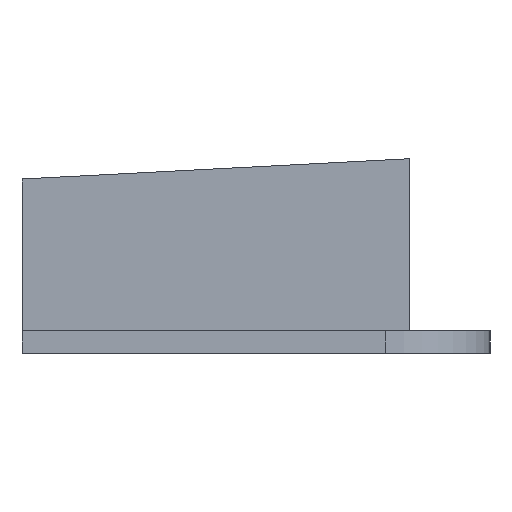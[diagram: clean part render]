
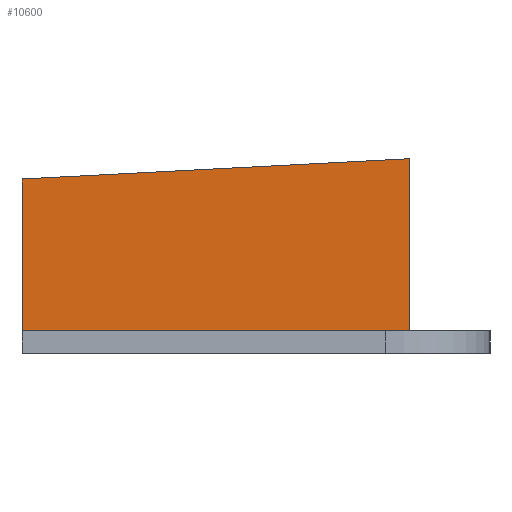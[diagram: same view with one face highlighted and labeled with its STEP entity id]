
A CAD part, left-side view. The second image highlights one B-rep face of the part: STEP entity #10600.
In plain terms, the highlighted planar face has unit normal (-1, 0, 0).
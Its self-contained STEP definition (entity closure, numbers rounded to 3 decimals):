
#121 = PLANE('',#122);
#122 = AXIS2_PLACEMENT_3D('',#123,#124,#125);
#123 = CARTESIAN_POINT('',(151.8,136.61,1.6));
#124 = DIRECTION('',(0.,0.,1.));
#125 = DIRECTION('',(1.,0.,-0.));
#1021 = PLANE('',#1022);
#1022 = AXIS2_PLACEMENT_3D('',#1023,#1024,#1025);
#1023 = CARTESIAN_POINT('',(32.61,35.875,-5.));
#1024 = DIRECTION('',(0.,1.,0.));
#1025 = DIRECTION('',(1.,0.,0.));
#1059 = VERTEX_POINT('',#1060);
#1060 = CARTESIAN_POINT('',(84.8,8.3,1.6));
#1073 = PLANE('',#1074);
#1074 = AXIS2_PLACEMENT_3D('',#1075,#1076,#1077);
#1075 = CARTESIAN_POINT('',(84.8,8.3,13.831));
#1076 = DIRECTION('',(-0.,1.,0.));
#1077 = DIRECTION('',(0.,0.,-1.));
#1084 = EDGE_CURVE('',#1059,#1085,#1087,.T.);
#1085 = VERTEX_POINT('',#1086);
#1086 = CARTESIAN_POINT('',(84.8,35.875,1.6));
#1087 = SURFACE_CURVE('',#1088,(#1092,#1098),.PCURVE_S1.);
#1088 = LINE('',#1089,#1090);
#1089 = CARTESIAN_POINT('',(84.8,98.579,1.6));
#1090 = VECTOR('',#1091,1.);
#1091 = DIRECTION('',(0.,1.,0.));
#1092 = PCURVE('',#121,#1093);
#1093 = DEFINITIONAL_REPRESENTATION('',(#1094),#1097);
#1094 = B_SPLINE_CURVE_WITH_KNOTS('',1,(#1095,#1096),.UNSPECIFIED.,.F.,
  .F.,(2,2),(-90.279,16.777),.PIECEWISE_BEZIER_KNOTS.);
#1095 = CARTESIAN_POINT('',(-67.,-128.31));
#1096 = CARTESIAN_POINT('',(-67.,-21.253));
#1097 = ( GEOMETRIC_REPRESENTATION_CONTEXT(2) 
PARAMETRIC_REPRESENTATION_CONTEXT() REPRESENTATION_CONTEXT('2D SPACE',''
  ) );
#1098 = PCURVE('',#1099,#1104);
#1099 = PLANE('',#1100);
#1100 = AXIS2_PLACEMENT_3D('',#1101,#1102,#1103);
#1101 = CARTESIAN_POINT('',(84.8,60.549,6.155));
#1102 = DIRECTION('',(1.,0.,0.));
#1103 = DIRECTION('',(0.,1.,0.));
#1104 = DEFINITIONAL_REPRESENTATION('',(#1105),#1108);
#1105 = B_SPLINE_CURVE_WITH_KNOTS('',1,(#1106,#1107),.UNSPECIFIED.,.F.,
  .F.,(2,2),(-90.279,16.777),.PIECEWISE_BEZIER_KNOTS.);
#1106 = CARTESIAN_POINT('',(-52.249,-4.555));
#1107 = CARTESIAN_POINT('',(54.807,-4.555));
#1108 = ( GEOMETRIC_REPRESENTATION_CONTEXT(2) 
PARAMETRIC_REPRESENTATION_CONTEXT() REPRESENTATION_CONTEXT('2D SPACE',''
  ) );
#10513 = EDGE_CURVE('',#10514,#1085,#10516,.T.);
#10514 = VERTEX_POINT('',#10515);
#10515 = CARTESIAN_POINT('',(84.8,35.875,12.391));
#10516 = SURFACE_CURVE('',#10517,(#10521,#10527),.PCURVE_S1.);
#10517 = LINE('',#10518,#10519);
#10518 = CARTESIAN_POINT('',(84.8,35.875,0.577));
#10519 = VECTOR('',#10520,1.);
#10520 = DIRECTION('',(0.,0.,-1.));
#10521 = PCURVE('',#1021,#10522);
#10522 = DEFINITIONAL_REPRESENTATION('',(#10523),#10526);
#10523 = B_SPLINE_CURVE_WITH_KNOTS('',1,(#10524,#10525),.UNSPECIFIED.,
  .F.,.F.,(2,2),(-13.254,-1.023),
  .PIECEWISE_BEZIER_KNOTS.);
#10524 = CARTESIAN_POINT('',(52.19,-18.831));
#10525 = CARTESIAN_POINT('',(52.19,-6.6));
#10526 = ( GEOMETRIC_REPRESENTATION_CONTEXT(2) 
PARAMETRIC_REPRESENTATION_CONTEXT() REPRESENTATION_CONTEXT('2D SPACE',''
  ) );
#10527 = PCURVE('',#1099,#10528);
#10528 = DEFINITIONAL_REPRESENTATION('',(#10529),#10532);
#10529 = B_SPLINE_CURVE_WITH_KNOTS('',1,(#10530,#10531),.UNSPECIFIED.,
  .F.,.F.,(2,2),(-13.254,-1.023),
  .PIECEWISE_BEZIER_KNOTS.);
#10530 = CARTESIAN_POINT('',(-24.674,7.677));
#10531 = CARTESIAN_POINT('',(-24.674,-4.555));
#10532 = ( GEOMETRIC_REPRESENTATION_CONTEXT(2) 
PARAMETRIC_REPRESENTATION_CONTEXT() REPRESENTATION_CONTEXT('2D SPACE',''
  ) );
#10549 = PLANE('',#10550);
#10550 = AXIS2_PLACEMENT_3D('',#10551,#10552,#10553);
#10551 = CARTESIAN_POINT('',(84.8,115.357,8.241));
#10552 = DIRECTION('',(0.,-0.052,-0.999));
#10553 = DIRECTION('',(0.,-0.999,0.052));
#10600 = ADVANCED_FACE('',(#10601),#1099,.F.);
#10601 = FACE_BOUND('',#10602,.F.);
#10602 = EDGE_LOOP('',(#10603,#10626,#10647,#10648));
#10603 = ORIENTED_EDGE('',*,*,#10604,.T.);
#10604 = EDGE_CURVE('',#10514,#10605,#10607,.T.);
#10605 = VERTEX_POINT('',#10606);
#10606 = CARTESIAN_POINT('',(84.8,8.3,13.831));
#10607 = SURFACE_CURVE('',#10608,(#10612,#10619),.PCURVE_S1.);
#10608 = LINE('',#10609,#10610);
#10609 = CARTESIAN_POINT('',(84.8,115.357,8.241));
#10610 = VECTOR('',#10611,1.);
#10611 = DIRECTION('',(0.,-0.999,0.052));
#10612 = PCURVE('',#1099,#10613);
#10613 = DEFINITIONAL_REPRESENTATION('',(#10614),#10618);
#10614 = LINE('',#10615,#10616);
#10615 = CARTESIAN_POINT('',(54.807,2.086));
#10616 = VECTOR('',#10617,1.);
#10617 = DIRECTION('',(-0.999,0.052));
#10618 = ( GEOMETRIC_REPRESENTATION_CONTEXT(2) 
PARAMETRIC_REPRESENTATION_CONTEXT() REPRESENTATION_CONTEXT('2D SPACE',''
  ) );
#10619 = PCURVE('',#10549,#10620);
#10620 = DEFINITIONAL_REPRESENTATION('',(#10621),#10625);
#10621 = LINE('',#10622,#10623);
#10622 = CARTESIAN_POINT('',(0.,0.));
#10623 = VECTOR('',#10624,1.);
#10624 = DIRECTION('',(1.,0.));
#10625 = ( GEOMETRIC_REPRESENTATION_CONTEXT(2) 
PARAMETRIC_REPRESENTATION_CONTEXT() REPRESENTATION_CONTEXT('2D SPACE',''
  ) );
#10626 = ORIENTED_EDGE('',*,*,#10627,.T.);
#10627 = EDGE_CURVE('',#10605,#1059,#10628,.T.);
#10628 = SURFACE_CURVE('',#10629,(#10633,#10640),.PCURVE_S1.);
#10629 = LINE('',#10630,#10631);
#10630 = CARTESIAN_POINT('',(84.8,8.3,13.831));
#10631 = VECTOR('',#10632,1.);
#10632 = DIRECTION('',(0.,0.,-1.));
#10633 = PCURVE('',#1099,#10634);
#10634 = DEFINITIONAL_REPRESENTATION('',(#10635),#10639);
#10635 = LINE('',#10636,#10637);
#10636 = CARTESIAN_POINT('',(-52.249,7.677));
#10637 = VECTOR('',#10638,1.);
#10638 = DIRECTION('',(0.,-1.));
#10639 = ( GEOMETRIC_REPRESENTATION_CONTEXT(2) 
PARAMETRIC_REPRESENTATION_CONTEXT() REPRESENTATION_CONTEXT('2D SPACE',''
  ) );
#10640 = PCURVE('',#1073,#10641);
#10641 = DEFINITIONAL_REPRESENTATION('',(#10642),#10646);
#10642 = LINE('',#10643,#10644);
#10643 = CARTESIAN_POINT('',(0.,0.));
#10644 = VECTOR('',#10645,1.);
#10645 = DIRECTION('',(1.,0.));
#10646 = ( GEOMETRIC_REPRESENTATION_CONTEXT(2) 
PARAMETRIC_REPRESENTATION_CONTEXT() REPRESENTATION_CONTEXT('2D SPACE',''
  ) );
#10647 = ORIENTED_EDGE('',*,*,#1084,.T.);
#10648 = ORIENTED_EDGE('',*,*,#10513,.F.);
